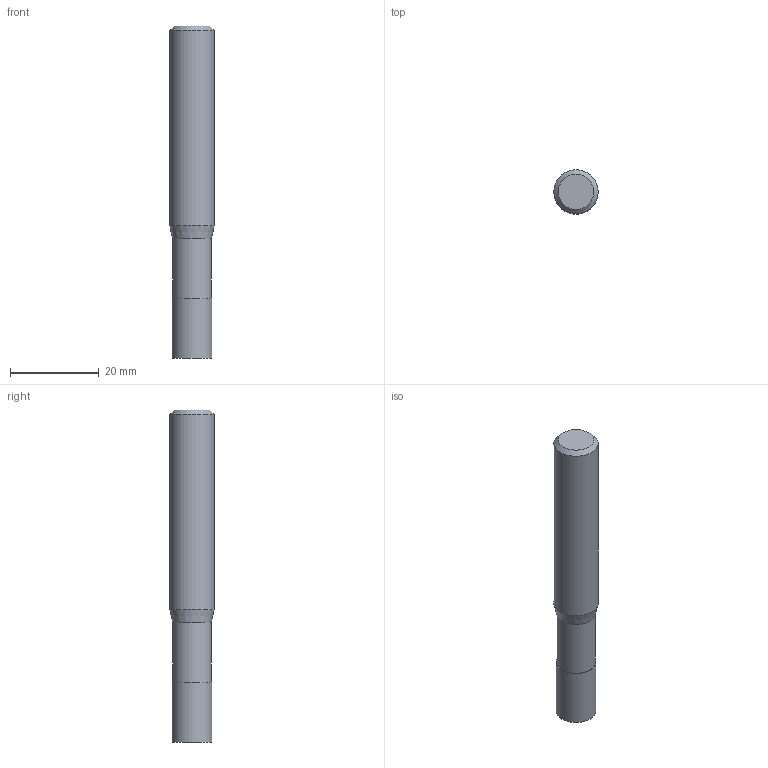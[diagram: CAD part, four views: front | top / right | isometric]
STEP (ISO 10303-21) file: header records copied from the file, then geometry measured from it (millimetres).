
FILE_DESCRIPTION((''),'2;1');
FILE_NAME('C:\Users\nsx150\AppData\Local\Temp\Mastercam 2021\EUJSUNXURU\TEMP.step','2021-04-22T10:29:39',(''),(''),'STEP Write','Mastercam 2021 ... CNC Software, Inc.','');
FILE_SCHEMA(('AUTOMOTIVE_DESIGN'));
Length unit declared in the file: millimetre
Products named in the file (1): None
Bounding box: 10 x 10 x 75 mm (x, y, z)
Volume: 5409.6 mm3; surface area: 2506.3 mm2
Topology: 2 solids, 2 shells, 9 faces, 12 edges, 7 vertices
Faces by surface type: plane 4, cylinder 3, cone 2
Full cylindrical faces by diameter (mm): 8.8 x1, 9 x1, 10 x1
Entity records: 211 total; most frequent: DIRECTION 36, CARTESIAN_POINT 25, AXIS2_PLACEMENT_3D 18, ORIENTED_EDGE 14, EDGE_LOOP 14, STYLED_ITEM 12, ADVANCED_FACE 9, FACE_BOUND 8
